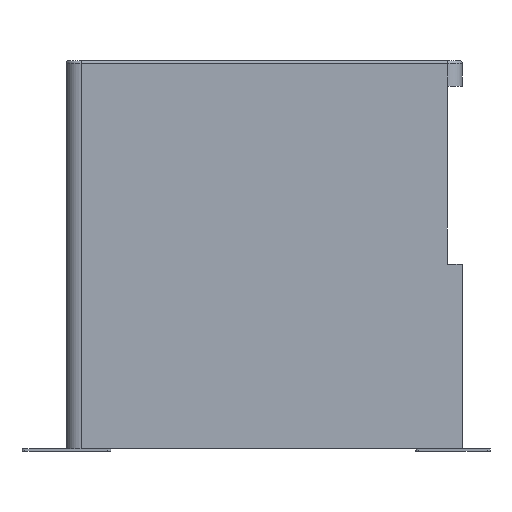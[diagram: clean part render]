
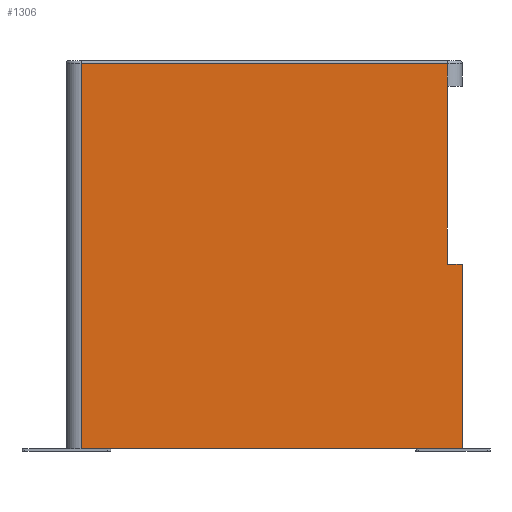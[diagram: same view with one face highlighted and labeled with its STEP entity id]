
A CAD part, left-side view. The second image highlights one B-rep face of the part: STEP entity #1306.
In plain terms, the highlighted planar face has unit normal (-1, 0, 0).
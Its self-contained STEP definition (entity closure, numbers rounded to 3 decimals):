
#83 = CARTESIAN_POINT ( 'NONE',  ( 0., 267.3, -262. ) ) ;
#177 = ORIENTED_EDGE ( 'NONE', *, *, #445, .T. ) ;
#243 = ORIENTED_EDGE ( 'NONE', *, *, #2408, .T. ) ;
#250 = CARTESIAN_POINT ( 'NONE',  ( 0., 10., -17.5 ) ) ;
#255 = VERTEX_POINT ( 'NONE', #2077 ) ;
#286 = EDGE_LOOP ( 'NONE', ( #177, #2651, #3318, #243, #1033, #655, #2498 ) ) ;
#421 = CARTESIAN_POINT ( 'NONE',  ( 0., 257.3, -2. ) ) ;
#424 = AXIS2_PLACEMENT_3D ( 'NONE', #3449, #979, #856 ) ;
#445 = EDGE_CURVE ( 'NONE', #2829, #2996, #1843, .T. ) ;
#614 = CARTESIAN_POINT ( 'NONE',  ( 0., 257.3, -262. ) ) ;
#655 = ORIENTED_EDGE ( 'NONE', *, *, #1295, .T. ) ;
#781 = CARTESIAN_POINT ( 'NONE',  ( 0., 0., 0. ) ) ;
#856 = DIRECTION ( 'NONE',  ( 0., 0., -1. ) ) ;
#888 = CARTESIAN_POINT ( 'NONE',  ( 0., 267.3, -2. ) ) ;
#904 = VECTOR ( 'NONE', #1338, 1000. ) ;
#979 = DIRECTION ( 'NONE',  ( 1., 0., 0. ) ) ;
#990 = LINE ( 'NONE', #1070, #904 ) ;
#1033 = ORIENTED_EDGE ( 'NONE', *, *, #1413, .T. ) ;
#1048 = VECTOR ( 'NONE', #1941, 1000. ) ;
#1070 = CARTESIAN_POINT ( 'NONE',  ( 0., 10., -17.5 ) ) ;
#1110 = VECTOR ( 'NONE', #2014, 1000. ) ;
#1158 = LINE ( 'NONE', #83, #3224 ) ;
#1295 = EDGE_CURVE ( 'NONE', #2767, #255, #3344, .T. ) ;
#1306 = ADVANCED_FACE ( 'NONE', ( #3269 ), #2777, .F. ) ;
#1338 = DIRECTION ( 'NONE',  ( 0., 0., 1. ) ) ;
#1413 = EDGE_CURVE ( 'NONE', #1985, #2767, #1666, .T. ) ;
#1435 = DIRECTION ( 'NONE',  ( 0., -1., 0. ) ) ;
#1580 = CARTESIAN_POINT ( 'NONE',  ( 0., 0., -137.5 ) ) ;
#1602 = CARTESIAN_POINT ( 'NONE',  ( 0., 0., -262. ) ) ;
#1666 = LINE ( 'NONE', #781, #2306 ) ;
#1682 = DIRECTION ( 'NONE',  ( 0., 1., 0. ) ) ;
#1700 = VERTEX_POINT ( 'NONE', #614 ) ;
#1774 = VERTEX_POINT ( 'NONE', #421 ) ;
#1843 = LINE ( 'NONE', #2797, #1048 ) ;
#1926 = VECTOR ( 'NONE', #2005, 1000. ) ;
#1941 = DIRECTION ( 'NONE',  ( 0., 0., 1. ) ) ;
#1985 = VERTEX_POINT ( 'NONE', #1602 ) ;
#2005 = DIRECTION ( 'NONE',  ( 0., 1., 0. ) ) ;
#2014 = DIRECTION ( 'NONE',  ( 0., 0., -1. ) ) ;
#2077 = CARTESIAN_POINT ( 'NONE',  ( 0., 10., -137.5 ) ) ;
#2171 = VECTOR ( 'NONE', #1682, 1000. ) ;
#2255 = LINE ( 'NONE', #888, #2171 ) ;
#2306 = VECTOR ( 'NONE', #2931, 1000. ) ;
#2408 = EDGE_CURVE ( 'NONE', #1700, #1985, #1158, .T. ) ;
#2498 = ORIENTED_EDGE ( 'NONE', *, *, #3390, .T. ) ;
#2542 = LINE ( 'NONE', #3355, #1110 ) ;
#2651 = ORIENTED_EDGE ( 'NONE', *, *, #2988, .T. ) ;
#2750 = CARTESIAN_POINT ( 'NONE',  ( 0., 10., -2. ) ) ;
#2767 = VERTEX_POINT ( 'NONE', #1580 ) ;
#2777 = PLANE ( 'NONE',  #424 ) ;
#2797 = CARTESIAN_POINT ( 'NONE',  ( 0., 10., 0. ) ) ;
#2829 = VERTEX_POINT ( 'NONE', #250 ) ;
#2931 = DIRECTION ( 'NONE',  ( 0., 0., 1. ) ) ;
#2988 = EDGE_CURVE ( 'NONE', #2996, #1774, #2255, .T. ) ;
#2996 = VERTEX_POINT ( 'NONE', #2750 ) ;
#3129 = EDGE_CURVE ( 'NONE', #1774, #1700, #2542, .T. ) ;
#3224 = VECTOR ( 'NONE', #1435, 1000. ) ;
#3269 = FACE_OUTER_BOUND ( 'NONE', #286, .T. ) ;
#3318 = ORIENTED_EDGE ( 'NONE', *, *, #3129, .T. ) ;
#3344 = LINE ( 'NONE', #3450, #1926 ) ;
#3355 = CARTESIAN_POINT ( 'NONE',  ( 0., 257.3, 0. ) ) ;
#3390 = EDGE_CURVE ( 'NONE', #255, #2829, #990, .T. ) ;
#3449 = CARTESIAN_POINT ( 'NONE',  ( 0., 267.3, 0. ) ) ;
#3450 = CARTESIAN_POINT ( 'NONE',  ( 0., -10., -137.5 ) ) ;
